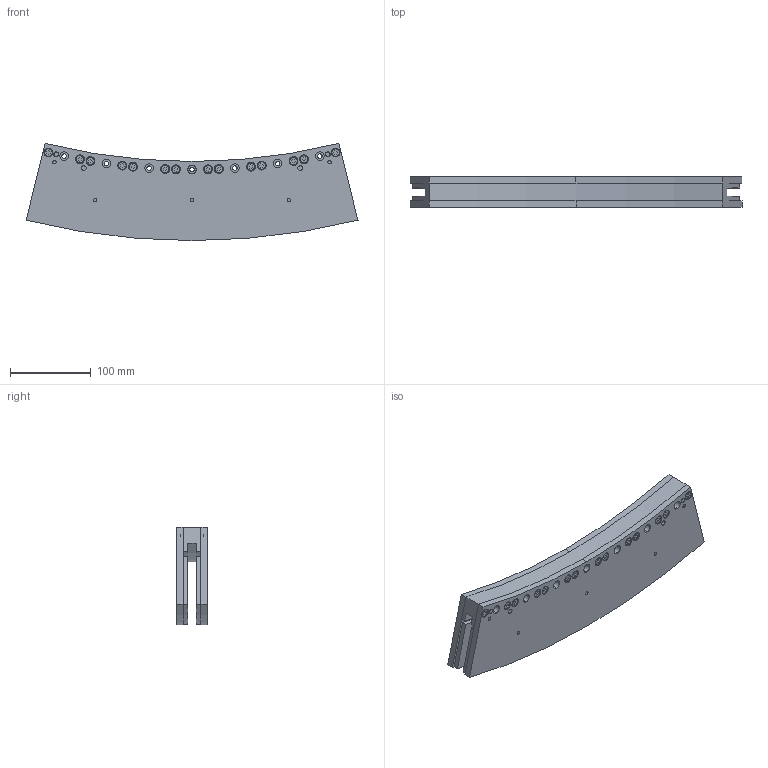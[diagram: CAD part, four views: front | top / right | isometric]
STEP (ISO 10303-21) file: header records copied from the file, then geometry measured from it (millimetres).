
FILE_DESCRIPTION (( 'STEP AP214' ), '1' );
FILE_NAME ('ARCM750-TA028 (CUSTOMER)_defeature.step', '2021-07-23T08:05:36', ( '' ), ( '' ), 'SwSTEP 2.0', 'SolidWorks 2020', '' );
FILE_SCHEMA (( 'AUTOMOTIVE_DESIGN' ));
Length unit declared in the file: millimetre
Products named in the file (1): ARCM750-TA028 (CUSTOMER)_defeature
Bounding box: 411.27 x 38 x 120.34 mm (x, y, z)
Volume: 1093141.8 mm3; surface area: 204974.6 mm2
Topology: 1 solids, 47 shells, 824 faces, 1768 edges, 1148 vertices
Faces by surface type: plane 390, cylinder 354, torus 56, cone 24
Entity records: 25629 total; most frequent: DIRECTION 4252, CARTESIAN_POINT 3733, ORIENTED_EDGE 3520, EDGE_CURVE 1760, AXIS2_PLACEMENT_3D 1667, VERTEX_POINT 1148, EDGE_LOOP 1012, VECTOR 918
